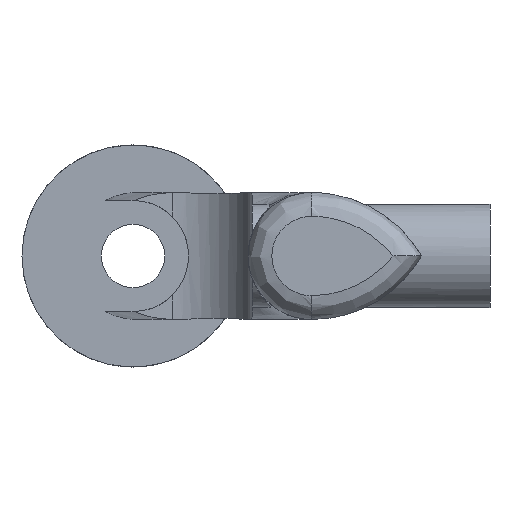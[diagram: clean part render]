
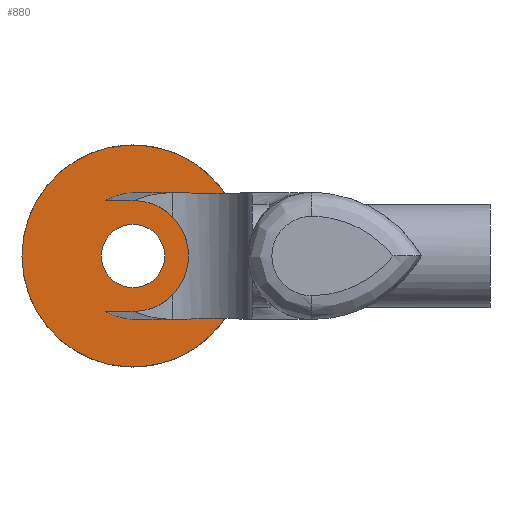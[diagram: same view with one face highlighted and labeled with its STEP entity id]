
A CAD part, front view. The second image highlights one B-rep face of the part: STEP entity #880.
In plain terms, the highlighted planar face has unit normal (0, -1, 0).
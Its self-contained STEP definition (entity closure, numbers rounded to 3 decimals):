
#86=DIRECTION('',(-1.,0.,0.));
#87=VECTOR('',#86,1.76);
#88=CARTESIAN_POINT('',(0.,-2.5,3.5));
#89=LINE('',#88,#87);
#90=DIRECTION('',(1.,0.,0.));
#91=VECTOR('',#90,1.76);
#92=CARTESIAN_POINT('',(-1.76,-2.5,-3.5));
#93=LINE('',#92,#91);
#94=CARTESIAN_POINT('',(0.,-2.5,0.));
#95=DIRECTION('',(0.,1.,0.));
#96=DIRECTION('',(0.99,0.,-0.141));
#97=AXIS2_PLACEMENT_3D('',#94,#95,#96);
#99=CARTESIAN_POINT('',(0.,-2.5,0.));
#100=DIRECTION('',(0.,1.,0.));
#101=DIRECTION('',(-1.,0.,0.));
#102=AXIS2_PLACEMENT_3D('',#99,#100,#101);
#104=CARTESIAN_POINT('',(0.,-2.5,0.));
#105=DIRECTION('',(0.,1.,0.));
#106=DIRECTION('',(1.,0.,0.));
#107=AXIS2_PLACEMENT_3D('',#104,#105,#106);
#113=CARTESIAN_POINT('',(0.,-2.5,0.));
#114=DIRECTION('',(0.,1.,0.));
#115=DIRECTION('',(-1.,0.,0.));
#116=AXIS2_PLACEMENT_3D('',#113,#114,#115);
#142=CARTESIAN_POINT('',(-1.76,-2.5,3.5));
#149=CARTESIAN_POINT('',(-1.76,-2.5,3.5));
#150=CARTESIAN_POINT('',(-1.456,-2.5,3.665));
#151=CARTESIAN_POINT('',(-0.822,-2.5,3.912));
#152=CARTESIAN_POINT('',(-0.14,-2.5,4.));
#153=CARTESIAN_POINT('',(0.214,-2.5,4.));
#177=CARTESIAN_POINT('',(0.214,-2.5,-4.));
#178=CARTESIAN_POINT('',(-0.14,-2.5,-4.));
#179=CARTESIAN_POINT('',(-0.823,-2.5,-3.912));
#180=CARTESIAN_POINT('',(-1.456,-2.5,-3.665));
#181=CARTESIAN_POINT('',(-1.76,-2.5,-3.5));
#188=CARTESIAN_POINT('',(-1.76,-2.5,-3.5));
#330=CARTESIAN_POINT('',(6.93,-2.5,-0.988));
#331=CARTESIAN_POINT('',(6.627,-2.5,-1.293));
#332=CARTESIAN_POINT('',(6.025,-2.5,-1.84));
#333=CARTESIAN_POINT('',(5.182,-2.5,-2.463));
#334=CARTESIAN_POINT('',(4.313,-2.5,-2.983));
#335=CARTESIAN_POINT('',(3.352,-2.5,-3.425));
#336=CARTESIAN_POINT('',(2.326,-2.5,-3.756));
#337=CARTESIAN_POINT('',(1.261,-2.5,-3.957));
#338=CARTESIAN_POINT('',(0.563,-2.5,-4.));
#339=CARTESIAN_POINT('',(0.214,-2.5,-4.));
#472=CARTESIAN_POINT('',(0.214,-2.5,4.));
#473=CARTESIAN_POINT('',(0.563,-2.5,4.));
#474=CARTESIAN_POINT('',(1.261,-2.5,3.957));
#475=CARTESIAN_POINT('',(2.326,-2.5,3.756));
#476=CARTESIAN_POINT('',(3.353,-2.5,3.425));
#477=CARTESIAN_POINT('',(4.314,-2.5,2.983));
#478=CARTESIAN_POINT('',(5.183,-2.5,2.462));
#479=CARTESIAN_POINT('',(6.025,-2.5,1.839));
#480=CARTESIAN_POINT('',(6.627,-2.5,1.292));
#481=CARTESIAN_POINT('',(6.93,-2.5,0.988));
#675=CARTESIAN_POINT('',(0.,-2.5,0.));
#676=DIRECTION('',(0.,-1.,0.));
#677=DIRECTION('',(0.,0.,-1.));
#678=AXIS2_PLACEMENT_3D('',#675,#676,#677);
#713=CARTESIAN_POINT('',(-7.,-2.5,0.));
#714=VERTEX_POINT('',#713);
#715=CARTESIAN_POINT('',(6.93,-2.5,-0.988));
#716=VERTEX_POINT('',#715);
#717=CARTESIAN_POINT('',(6.93,-2.5,0.988));
#718=VERTEX_POINT('',#717);
#725=VERTEX_POINT('',#339);
#727=VERTEX_POINT('',#472);
#728=CARTESIAN_POINT('',(2.,-2.5,0.));
#729=CARTESIAN_POINT('',(-2.,-2.5,0.));
#730=VERTEX_POINT('',#728);
#731=VERTEX_POINT('',#729);
#736=VERTEX_POINT('',#142);
#739=VERTEX_POINT('',#188);
#740=CARTESIAN_POINT('',(0.,-2.5,3.5));
#741=VERTEX_POINT('',#740);
#742=CARTESIAN_POINT('',(0.,-2.5,-3.5));
#743=VERTEX_POINT('',#742);
#850=CARTESIAN_POINT('',(0.,-2.5,0.));
#851=DIRECTION('',(0.,1.,0.));
#852=DIRECTION('',(1.,0.,0.));
#853=AXIS2_PLACEMENT_3D('',#850,#851,#852);
#854=PLANE('',#853);
#856=ORIENTED_EDGE('',*,*,#855,.F.);
#858=ORIENTED_EDGE('',*,*,#857,.F.);
#860=ORIENTED_EDGE('',*,*,#859,.F.);
#862=ORIENTED_EDGE('',*,*,#861,.F.);
#864=ORIENTED_EDGE('',*,*,#863,.F.);
#865=ORIENTED_EDGE('',*,*,#838,.T.);
#867=ORIENTED_EDGE('',*,*,#866,.T.);
#869=ORIENTED_EDGE('',*,*,#868,.F.);
#871=ORIENTED_EDGE('',*,*,#870,.F.);
#872=EDGE_LOOP('',(#856,#858,#860,#862,#864,#865,#867,#869,#871));
#873=FACE_OUTER_BOUND('',#872,.F.);
#875=ORIENTED_EDGE('',*,*,#874,.F.);
#877=ORIENTED_EDGE('',*,*,#876,.F.);
#878=EDGE_LOOP('',(#875,#877));
#879=FACE_BOUND('',#878,.F.);
#880=ADVANCED_FACE('',(#873,#879),#854,.F.);
#98=CIRCLE('',#97,7.);
#103=CIRCLE('',#102,7.);
#108=CIRCLE('',#107,2.);
#117=CIRCLE('',#116,2.);
#154=B_SPLINE_CURVE_WITH_KNOTS('',3,(#149,#150,#151,#152,#153),.UNSPECIFIED.,
.F.,.F.,(4,1,4),(0.,0.5,1.),.UNSPECIFIED.);
#182=B_SPLINE_CURVE_WITH_KNOTS('',3,(#177,#178,#179,#180,#181),.UNSPECIFIED.,
.F.,.F.,(4,1,4),(0.,0.5,1.),.UNSPECIFIED.);
#340=B_SPLINE_CURVE_WITH_KNOTS('',3,(#330,#331,#332,#333,#334,#335,#336,#337,
#338,#339),.UNSPECIFIED.,.F.,.F.,(4,1,1,1,1,1,1,4),(0.,0.143,
0.286,0.429,0.571,0.714,
0.857,1.),.UNSPECIFIED.);
#482=B_SPLINE_CURVE_WITH_KNOTS('',3,(#472,#473,#474,#475,#476,#477,#478,#479,
#480,#481),.UNSPECIFIED.,.F.,.F.,(4,1,1,1,1,1,1,4),(0.,0.143,
0.286,0.429,0.571,0.714,
0.857,1.),.UNSPECIFIED.);
#679=CIRCLE('',#678,3.5);
#838=EDGE_CURVE('',#716,#714,#98,.T.);
#855=EDGE_CURVE('',#741,#736,#89,.T.);
#857=EDGE_CURVE('',#743,#741,#679,.T.);
#859=EDGE_CURVE('',#739,#743,#93,.T.);
#861=EDGE_CURVE('',#725,#739,#182,.T.);
#863=EDGE_CURVE('',#716,#725,#340,.T.);
#866=EDGE_CURVE('',#714,#718,#103,.T.);
#868=EDGE_CURVE('',#727,#718,#482,.T.);
#870=EDGE_CURVE('',#736,#727,#154,.T.);
#874=EDGE_CURVE('',#730,#731,#108,.T.);
#876=EDGE_CURVE('',#731,#730,#117,.T.);
